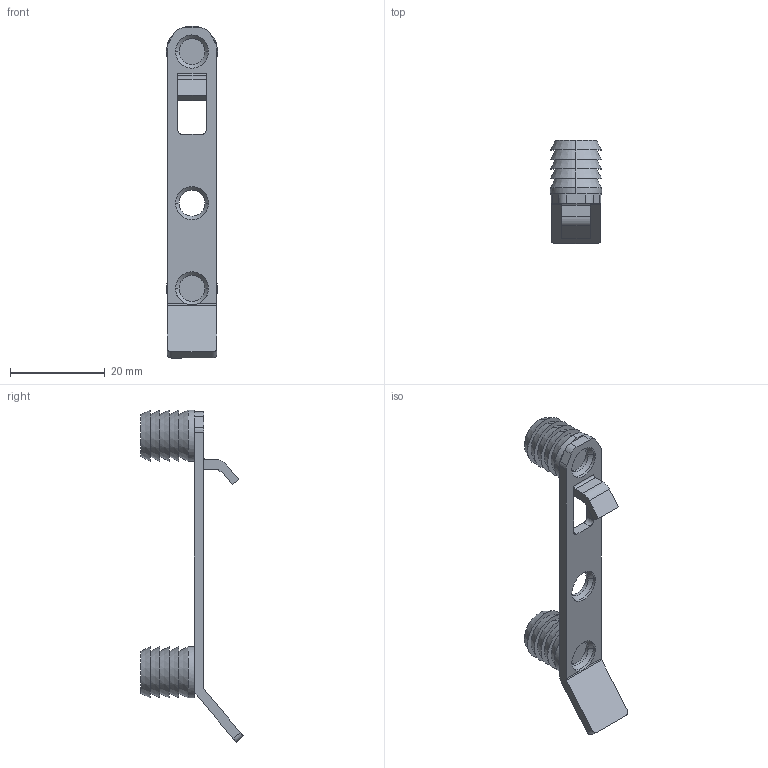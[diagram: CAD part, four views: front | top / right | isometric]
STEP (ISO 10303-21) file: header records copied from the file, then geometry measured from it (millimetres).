
FILE_DESCRIPTION (( 'STEP AP214' ), '1' );
FILE_NAME ('_Einhaengehaken_H90_Einpressvariante_50.step', '2010-07-15T08:03:21', ( 'grass' ), ( '' ), 'SwSTEP 2.0', 'SolidWorks 2009', '' );
FILE_SCHEMA (( 'AUTOMOTIVE_DESIGN' ));
Length unit declared in the file: millimetre
Products named in the file (1): _Einhaengehaken_H90_Einpressvariante_50
Bounding box: 10.8 x 21.66 x 70.09 mm (x, y, z)
Volume: 3026.8 mm3; surface area: 2927.6 mm2
Topology: 1 solids, 1 shells, 101 faces, 241 edges, 150 vertices
Faces by surface type: plane 45, cylinder 30, cone 26
Entity records: 2983 total; most frequent: DIRECTION 559, CARTESIAN_POINT 502, ORIENTED_EDGE 482, EDGE_CURVE 241, AXIS2_PLACEMENT_3D 217, VERTEX_POINT 150, LINE 125, VECTOR 125
